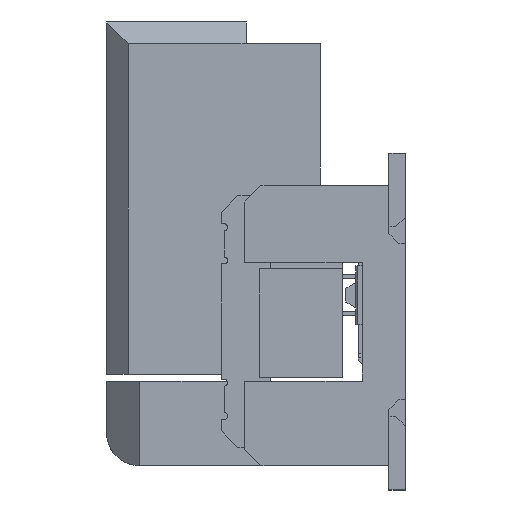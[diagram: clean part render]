
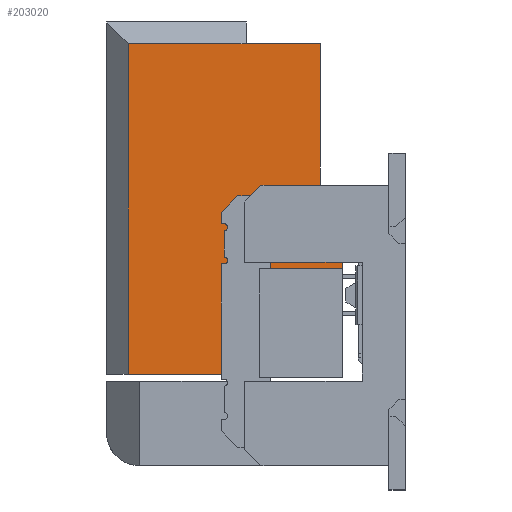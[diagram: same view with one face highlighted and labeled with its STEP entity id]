
A CAD part, left-side view. The second image highlights one B-rep face of the part: STEP entity #203020.
In plain terms, the highlighted planar face has unit normal (-1, 0, 0) as drawn and (1, 0, 0) by its records, which use the part's own axes.
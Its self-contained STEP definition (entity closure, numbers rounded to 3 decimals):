
#155720=CARTESIAN_POINT('',(7.01,12.71,
4.8));
#155730=VERTEX_POINT('',#155720);
#167450=CARTESIAN_POINT('',(7.01,2.75,
8.35));
#167460=VERTEX_POINT('',#167450);
#167490=CARTESIAN_POINT('',(7.01,2.75,
9.));
#167500=DIRECTION('',(0.,0.,-1.));
#167510=VECTOR('',#167500,1.);
#167520=LINE('',#167490,#167510);
#167530=CARTESIAN_POINT('',(7.01,2.75,
4.4));
#167540=VERTEX_POINT('',#167530);
#167550=EDGE_CURVE('',#167460,#167540,#167520,.T.);
#202340=CARTESIAN_POINT('',(7.01,2.75,
4.4));
#202350=DIRECTION('',(1.,0.,-0.));
#202360=DIRECTION('',(0.,0.,1.));
#202370=AXIS2_PLACEMENT_3D('',#202340,#202350,#202360);
#202380=PLANE('',#202370);
#202390=CARTESIAN_POINT('',(7.01,8.055,
8.35));
#202400=DIRECTION('',(0.,1.,0.));
#202410=VECTOR('',#202400,1.);
#202420=LINE('',#202390,#202410);
#202430=CARTESIAN_POINT('',(7.01,12.71,
8.35));
#202440=VERTEX_POINT('',#202430);
#202450=EDGE_CURVE('',#167460,#202440,#202420,.T.);
#202460=ORIENTED_EDGE('',*,*,#202450,.F.);
#202470=CARTESIAN_POINT('',(7.01,12.71,
6.9));
#202480=DIRECTION('',(0.,0.,-1.));
#202490=VECTOR('',#202480,1.);
#202500=LINE('',#202470,#202490);
#202510=EDGE_CURVE('',#202440,#155730,#202500,.T.);
#202520=ORIENTED_EDGE('',*,*,#202510,.F.);
#202530=CARTESIAN_POINT('',(7.01,12.71,
1.9));
#202540=DIRECTION('',(0.,0.,1.));
#202550=VECTOR('',#202540,1.);
#202560=LINE('',#202530,#202550);
#202570=CARTESIAN_POINT('',(7.01,12.71,
2.56));
#202580=VERTEX_POINT('',#202570);
#202590=EDGE_CURVE('',#202580,#155730,#202560,.T.);
#202600=ORIENTED_EDGE('',*,*,#202590,.T.);
#202610=CARTESIAN_POINT('',(7.01,2.75,
2.56));
#202620=DIRECTION('',(0.,-1.,0.));
#202630=VECTOR('',#202620,1.);
#202640=LINE('',#202610,#202630);
#202650=CARTESIAN_POINT('',(7.01,8.33,
2.56));
#202660=VERTEX_POINT('',#202650);
#202670=EDGE_CURVE('',#202580,#202660,#202640,.T.);
#202680=ORIENTED_EDGE('',*,*,#202670,.F.);
#202690=CARTESIAN_POINT('',(7.01,8.33,
1.9));
#202700=DIRECTION('',(0.,0.,-1.));
#202710=VECTOR('',#202700,1.);
#202720=LINE('',#202690,#202710);
#202730=CARTESIAN_POINT('',(7.01,8.33,
1.9));
#202740=VERTEX_POINT('',#202730);
#202750=EDGE_CURVE('',#202660,#202740,#202720,.T.);
#202760=ORIENTED_EDGE('',*,*,#202750,.F.);
#202770=CARTESIAN_POINT('',(7.01,2.75,
1.9));
#202780=DIRECTION('',(0.,1.,0.));
#202790=VECTOR('',#202780,1.);
#202800=LINE('',#202770,#202790);
#202810=CARTESIAN_POINT('',(7.01,5.93,
1.9));
#202820=VERTEX_POINT('',#202810);
#202830=EDGE_CURVE('',#202820,#202740,#202800,.T.);
#202840=ORIENTED_EDGE('',*,*,#202830,.T.);
#202850=CARTESIAN_POINT('',(7.01,5.93,
1.9));
#202860=DIRECTION('',(0.,0.,1.));
#202870=VECTOR('',#202860,1.);
#202880=LINE('',#202850,#202870);
#202890=CARTESIAN_POINT('',(7.01,5.93,
4.4));
#202900=VERTEX_POINT('',#202890);
#202910=EDGE_CURVE('',#202820,#202900,#202880,.T.);
#202920=ORIENTED_EDGE('',*,*,#202910,.F.);
#202930=CARTESIAN_POINT('',(7.01,2.75,
4.4));
#202940=DIRECTION('',(0.,1.,0.));
#202950=VECTOR('',#202940,1.);
#202960=LINE('',#202930,#202950);
#202970=EDGE_CURVE('',#167540,#202900,#202960,.T.);
#202980=ORIENTED_EDGE('',*,*,#202970,.T.);
#202990=ORIENTED_EDGE('',*,*,#167550,.T.);
#203000=EDGE_LOOP('',(#202990,#202980,#202920,#202840,#202760,#202680,
#202600,#202520,#202460));
#203010=FACE_OUTER_BOUND('',#203000,.T.);
#203020=ADVANCED_FACE('',(#203010),#202380,.T.);
